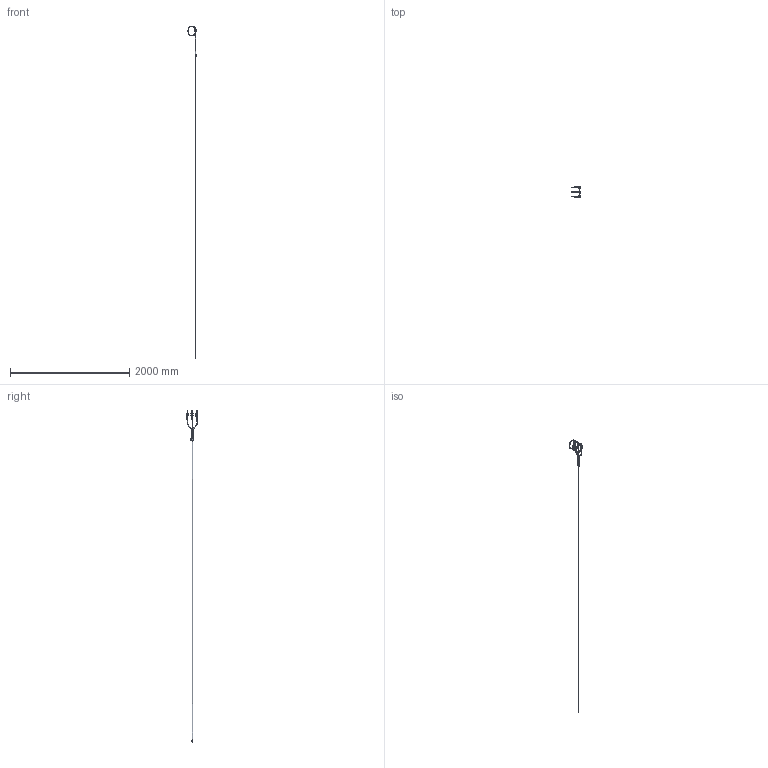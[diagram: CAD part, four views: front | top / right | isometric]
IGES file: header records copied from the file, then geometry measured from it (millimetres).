
Start section: Elysium IGES Interface
Global section: file name: C:\Users\ads\Desktop\90.M4.99.102.0.igs; native system: Creo Elements/Direct Modeling 20.1  10-Mar-2018; preprocessor: Creo Element/Direct IGES_3D V2.2; author: Unknown; organization: Unknown; date: 20201127.152221; units: millimetre
Bounding box: 136.75 x 192.44 x 5569.74 mm (x, y, z)
Volume: 321737.2 mm3; surface area: 187973 mm2
Topology: 1 solids, 5 shells, 4223 faces, 10915 edges, 6632 vertices
Faces by surface type: bspline 4223
